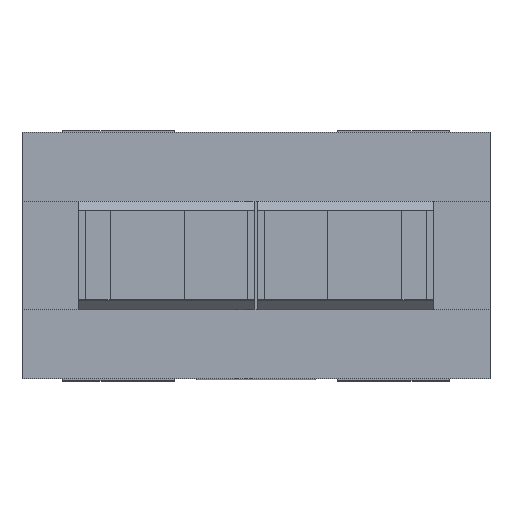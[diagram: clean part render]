
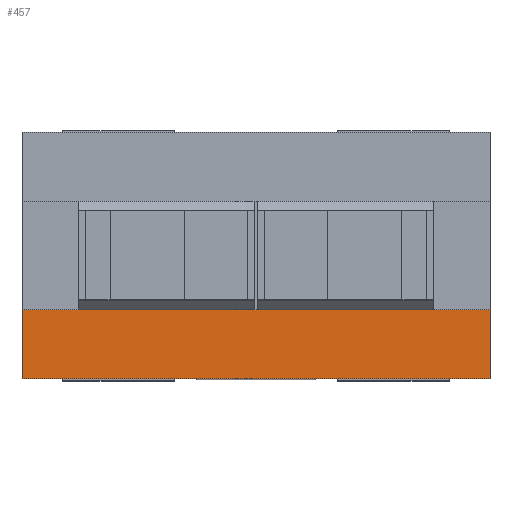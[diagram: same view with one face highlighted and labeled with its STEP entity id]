
A CAD part, top view. The second image highlights one B-rep face of the part: STEP entity #457.
In plain terms, the highlighted planar face has unit normal (0, 0, 1).
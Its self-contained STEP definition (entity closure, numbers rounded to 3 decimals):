
#457 = ADVANCED_FACE( '', ( #966 ), #967, .F. );
#966 = FACE_OUTER_BOUND( '', #1530, .T. );
#967 = PLANE( '', #1531 );
#1530 = EDGE_LOOP( '', ( #2694, #2695, #2696, #2697 ) );
#1531 = AXIS2_PLACEMENT_3D( '', #2698, #2699, #2700 );
#2694 = ORIENTED_EDGE( '', *, *, #3533, .T. );
#2695 = ORIENTED_EDGE( '', *, *, #3606, .F. );
#2696 = ORIENTED_EDGE( '', *, *, #3543, .F. );
#2697 = ORIENTED_EDGE( '', *, *, #3183, .T. );
#2698 = CARTESIAN_POINT( '', ( 31.5, -7.3, 74.6 ) );
#2699 = DIRECTION( '', ( 0., 0., -1. ) );
#2700 = DIRECTION( '', ( -1., 0., 0. ) );
#3183 = EDGE_CURVE( '', #3762, #3760, #3763, .T. );
#3533 = EDGE_CURVE( '', #3760, #4319, #4321, .T. );
#3543 = EDGE_CURVE( '', #3762, #4334, #4335, .T. );
#3606 = EDGE_CURVE( '', #4334, #4319, #4413, .T. );
#3760 = VERTEX_POINT( '', #4607 );
#3762 = VERTEX_POINT( '', #4610 );
#3763 = LINE( '', #4611, #4612 );
#4319 = VERTEX_POINT( '', #5382 );
#4321 = LINE( '', #5385, #5386 );
#4334 = VERTEX_POINT( '', #5402 );
#4335 = LINE( '', #5403, #5404 );
#4413 = LINE( '', #5509, #5510 );
#4607 = CARTESIAN_POINT( '', ( -31.5, -7.3, 74.6 ) );
#4610 = CARTESIAN_POINT( '', ( 31.5, -7.3, 74.6 ) );
#4611 = CARTESIAN_POINT( '', ( 31.5, -7.3, 74.6 ) );
#4612 = VECTOR( '', #5665, 1000. );
#5382 = CARTESIAN_POINT( '', ( -31.5, -16.6, 74.6 ) );
#5385 = CARTESIAN_POINT( '', ( -31.5, -7.3, 74.6 ) );
#5386 = VECTOR( '', #6055, 1000. );
#5402 = CARTESIAN_POINT( '', ( 31.5, -16.6, 74.6 ) );
#5403 = CARTESIAN_POINT( '', ( 31.5, -7.3, 74.6 ) );
#5404 = VECTOR( '', #6068, 1000. );
#5509 = CARTESIAN_POINT( '', ( 31.5, -16.6, 74.6 ) );
#5510 = VECTOR( '', #6126, 1000. );
#5665 = DIRECTION( '', ( -1., 0., 0. ) );
#6055 = DIRECTION( '', ( 0., -1., 0. ) );
#6068 = DIRECTION( '', ( 0., -1., 0. ) );
#6126 = DIRECTION( '', ( -1., 0., 0. ) );
